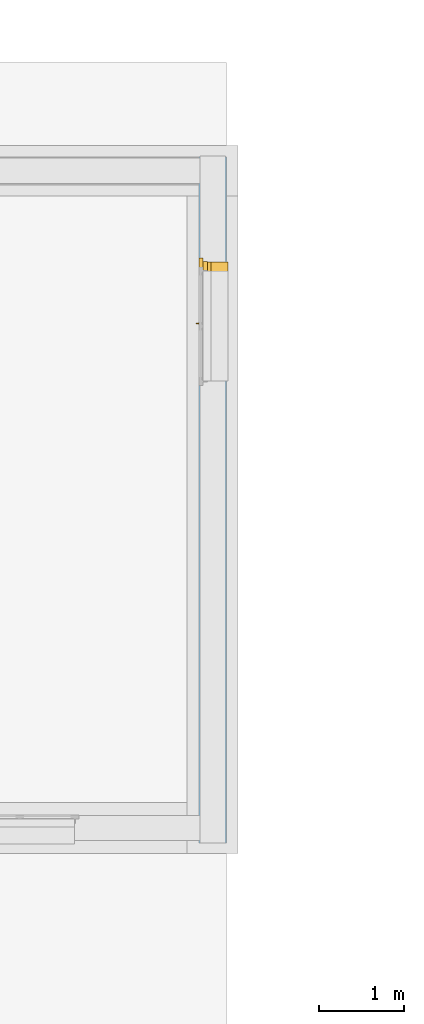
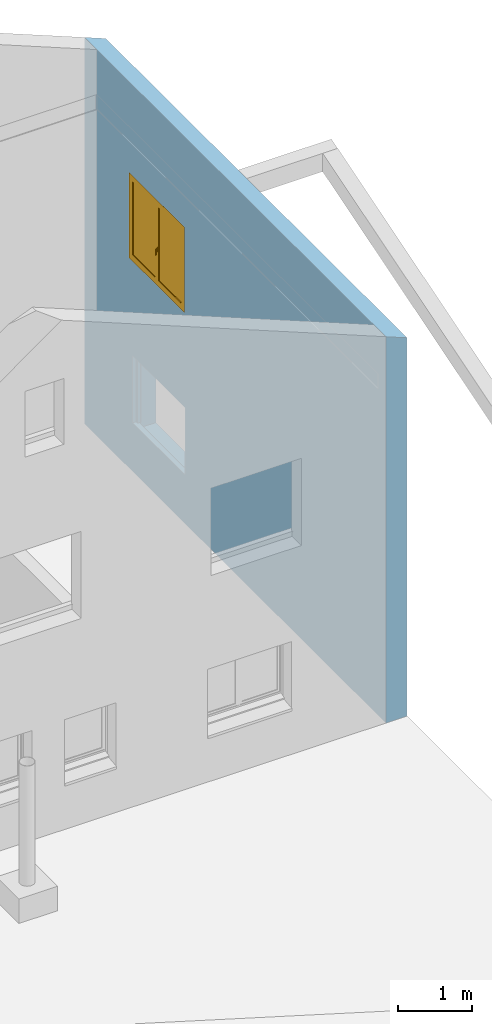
"""IFC2X3 building model written with IfcOpenShell, lengths in metres."""

from ifc_helpers import new_model, entity, si_unit, converted_unit, derived_unit, direction, frame, frame_2d, origin, place, context, subcontext, project, spatial, polyline, rectangle, extrude, clip, bounded_halfspace, faceted_brep, source, transform, mapped, material, material_list, layer, layer_set, layer_usage, type_object, type_shapes, element, fill, save


model = new_model("IFC2X3")

# Units and contexts
model_context = context("Model", 3, precision=1e-05, world=origin(), true_north=direction((6.12303176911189e-17, 1.0)))
body_context = subcontext(model_context, "Body", "Model", "MODEL_VIEW")
ifc_project = project(units=[si_unit("LENGTHUNIT", "METRE"), si_unit("AREAUNIT", "SQUARE_METRE"), si_unit("VOLUMEUNIT", "CUBIC_METRE"), converted_unit("PLANEANGLEUNIT", "DEGREE", entity("IfcRatioMeasure", 0.0174532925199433), si_unit("PLANEANGLEUNIT", "RADIAN"), dimensions=[0, 0, 0, 0, 0, 0, 0]), si_unit("MASSUNIT", "GRAM", prefix="KILO"), derived_unit("MASSDENSITYUNIT", [(si_unit("MASSUNIT", "GRAM", prefix="KILO"), 1), (si_unit("LENGTHUNIT", "METRE"), -3)]), derived_unit("MOMENTOFINERTIAUNIT", [(si_unit("LENGTHUNIT", "METRE"), 4)]), si_unit("TIMEUNIT", "SECOND"), si_unit("FREQUENCYUNIT", "HERTZ"), si_unit("THERMODYNAMICTEMPERATUREUNIT", "DEGREE_CELSIUS"), derived_unit("THERMALTRANSMITTANCEUNIT", [(si_unit("MASSUNIT", "GRAM", prefix="KILO"), 1), (si_unit("THERMODYNAMICTEMPERATUREUNIT", "KELVIN"), -1), (si_unit("TIMEUNIT", "SECOND"), -3)]), derived_unit("VOLUMETRICFLOWRATEUNIT", [(si_unit("LENGTHUNIT", "METRE"), 3), (si_unit("TIMEUNIT", "SECOND"), -1)]), si_unit("ELECTRICCURRENTUNIT", "AMPERE"), si_unit("ELECTRICVOLTAGEUNIT", "VOLT"), si_unit("POWERUNIT", "WATT"), si_unit("FORCEUNIT", "NEWTON", prefix="KILO"), si_unit("ILLUMINANCEUNIT", "LUX"), si_unit("LUMINOUSFLUXUNIT", "LUMEN"), si_unit("LUMINOUSINTENSITYUNIT", "CANDELA"), derived_unit("USERDEFINED", [(si_unit("MASSUNIT", "GRAM", prefix="KILO"), -1), (si_unit("LENGTHUNIT", "METRE"), -2), (si_unit("TIMEUNIT", "SECOND"), 3), (si_unit("LUMINOUSFLUXUNIT", "LUMEN"), 1)]), derived_unit("LINEARVELOCITYUNIT", [(si_unit("LENGTHUNIT", "METRE"), 1), (si_unit("TIMEUNIT", "SECOND"), -1)]), si_unit("PRESSUREUNIT", "PASCAL"), derived_unit("USERDEFINED", [(si_unit("LENGTHUNIT", "METRE"), -2), (si_unit("MASSUNIT", "GRAM", prefix="KILO"), 1), (si_unit("TIMEUNIT", "SECOND"), -2)]), derived_unit("LINEARFORCEUNIT", [(si_unit("MASSUNIT", "GRAM", prefix="KILO"), 1), (si_unit("LENGTHUNIT", "METRE"), 1), (si_unit("TIMEUNIT", "SECOND"), -2), (si_unit("LENGTHUNIT", "METRE"), -1)]), derived_unit("PLANARFORCEUNIT", [(si_unit("MASSUNIT", "GRAM", prefix="KILO"), 1), (si_unit("LENGTHUNIT", "METRE"), 1), (si_unit("TIMEUNIT", "SECOND"), -2), (si_unit("LENGTHUNIT", "METRE"), -2)])], contexts=[model_context])

# Site, building, storey
site_placement = place(None, origin())
site = spatial("IfcSite", under=ifc_project, at=site_placement, Name="Surface", CompositionType="ELEMENT")
building_placement = place(site_placement, origin())
building = spatial("IfcBuilding", under=site, at=building_placement, CompositionType="ELEMENT")
storey_1_placement = place(building_placement, origin())
storey_1 = spatial("IfcBuildingStorey", under=building, at=storey_1_placement, Name="Niveau rdc", CompositionType="ELEMENT", Elevation=-1.94916083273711e-14)

# Wall, openings
ifc_material_1 = material(Name="Maçonnerie - Isolant")
ifc_layer_1 = layer(ifc_material_1, 0.015)
ifc_material_2 = material(Name="Blocs briques monomur")
ifc_layer_2 = layer(ifc_material_2, 0.3)
ifc_layer_3 = layer(ifc_material_1, 0.015)
ifc_layer_set = layer_set([ifc_layer_1, ifc_layer_2, ifc_layer_3], Name="Mur de base:bloc monomur30")
ifc_layer_usage = layer_usage(ifc_layer_set, "AXIS2", "POSITIVE", -0.165)
wall_type = type_object("IfcWallType", Name="Mur de base:bloc monomur30", PredefinedType="STANDARD", material=ifc_layer_set)
wall_placement = place(storey_1_placement, frame((12.6193960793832, 7.33925810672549, 0.0), z_axis=(0.0, 0.0, 1.0), x_axis=(0.0, -1.0, 0.0)))
wall = element("IfcWallStandardCase", 1, at=wall_placement, inside=storey_1, type_object=wall_type, material=ifc_layer_usage, Name="Mur de base:bloc monomur30", ObjectType="Mur de base:bloc monomur30", context=body_context, shape_type="Clipping", body=[
    clip(extrude(rectangle(XDim=8.095, YDim=0.329999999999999, at=frame_2d((4.0475, -6.93889390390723e-17), x_axis=(-1.0, 0.0))), origin(), (0.0, 0.0, 1.0), 6.33642179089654), bounded_halfspace(frame((0.0, -0.165000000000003, 6.33642179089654), z_axis=(0.0, 0.374606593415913, 0.927183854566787), x_axis=(-1.0, 0.0, 0.0)), False, frame((0.0, -0.165000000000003, 6.33642179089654)), polyline([(0.0, 0.0), (0.33, 0.0), (3.94, 0.0), (4.14, 0.0), (7.765, 0.0), (8.095, 0.0), (8.095, 0.330000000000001), (0.0, 0.330000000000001), (0.0, 0.0)]))),
])
opening_1_placement = place(storey_1_placement, frame((12.6193960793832, 7.33925810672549, 0.0), z_axis=(0.0, 0.0, 1.0), x_axis=(0.0, -1.0, 0.0)))
element("IfcOpeningElement", 2, at=opening_1_placement, cuts=wall, Name="Mur de base:bloc monomur30:1", ObjectType="Opening", context=body_context, shape_type="SweptSolid", body=[
    extrude(rectangle(XDim=7.57500000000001, YDim=0.0150000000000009, at=frame_2d((0.0568749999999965, -0.00375000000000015), x_axis=(1.0, 0.0))), frame((4.159375, -0.161250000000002, 5.35000000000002), z_axis=(0.0, 0.0, 1.0), x_axis=(-1.0, 0.0, 0.0)), (0.0, 0.0, 1.0), 0.249999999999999),
])
opening_2_placement = place(wall_placement, frame((2.695, -0.500000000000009, 0.72), z_axis=(0.0, 0.0, 1.0), x_axis=(0.0, 1.0, 0.0)))
element("IfcOpeningElement", 3, at=opening_2_placement, cuts=wall, Name="Mur de base:bloc monomur30", ObjectType="Opening", context=body_context, shape_type="Brep", body=[
    faceted_brep([(0.41499999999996, 1.35, 0.0800000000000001), (0.435000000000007, 1.35, 0.0800000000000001), (0.435000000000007, 1.35, 1.13), (1.0, 1.35, 1.13), (1.0, 1.35, 0.0), (0.41499999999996, 1.35, 0.0), (0.0, 0.0500000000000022, 0.0800000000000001), (0.335000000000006, 0.0500000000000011, 0.0800000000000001), (0.335000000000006, 0.0500000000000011, 1.13), (0.0, 0.0500000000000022, 1.13), (0.0, 1.35, 0.0800000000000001), (0.335000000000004, 1.35, 0.0800000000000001), (0.335000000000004, 1.4, 0.0800000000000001), (0.385000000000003, 1.4, 0.0800000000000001), (0.385000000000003, 1.36, 0.0800000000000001), (0.435000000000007, 1.36, 0.0800000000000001), (0.414999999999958, 0.0500000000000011, 0.0800000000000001), (0.435000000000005, 0.0500000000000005, 0.0800000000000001), (0.435000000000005, 0.0400000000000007, 0.0800000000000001), (0.385000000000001, 0.0400000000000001, 0.0800000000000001), (0.385000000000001, 0.0, 0.0800000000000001), (0.335000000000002, 0.0, 0.0800000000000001), (0.0, 1.35, 1.13), (0.435000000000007, 0.0500000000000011, 1.13), (1.0, 0.0499999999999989, 1.13), (1.0, 0.0499999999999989, 0.0), (0.414999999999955, 0.0500000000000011, 0.0), (0.335000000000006, 1.4, 1.18), (0.385000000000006, 1.4, 1.18), (0.385000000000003, 0.0, 1.18), (0.385000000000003, 0.0400000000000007, 1.14), (0.385000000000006, 1.36, 1.14), (0.435000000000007, 1.36, 1.14), (0.435000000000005, 0.0400000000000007, 1.14), (0.335000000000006, 1.35, 1.13), (0.335000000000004, 0.0, 1.18)], [[[0, 1, 2, 3, 4, 5]], [[6, 7, 8, 9]], [[10, 11, 12, 13, 14, 15, 1, 0, 16, 17, 18, 19, 20, 21, 7, 6]], [[10, 6, 9, 22]], [[3, 2, 23, 24]], [[3, 24, 25, 4]], [[4, 25, 26, 5]], [[5, 26, 16, 0]], [[12, 27, 28, 13]], [[13, 28, 29, 20, 19, 30, 31, 14]], [[14, 31, 32, 15]], [[15, 32, 33, 18, 17, 23, 2, 1]], [[11, 34, 8, 7, 21, 35, 27, 12]], [[27, 35, 29, 28]], [[30, 33, 32, 31]], [[29, 35, 21, 20]], [[19, 18, 33, 30]], [[9, 8, 34, 22]], [[24, 23, 17, 16, 26, 25]], [[22, 34, 11, 10]]]),
])
opening_3_placement = place(wall_placement, frame((2.69, -0.500000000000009, 3.37), z_axis=(0.0, 0.0, 1.0), x_axis=(0.0, 1.0, 0.0)))
opening_3 = element("IfcOpeningElement", 4, at=opening_3_placement, cuts=wall, Name="Mur de base:bloc monomur30", ObjectType="Opening", context=body_context, shape_type="Brep", body=[
    faceted_brep([(0.41499999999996, 1.45, 0.0800000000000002), (0.435000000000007, 1.45, 0.0800000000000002), (0.435000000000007, 1.45, 1.43), (1.0, 1.45, 1.43), (1.0, 1.45, 0.0), (0.41499999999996, 1.45, 0.0), (0.0, 0.0500000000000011, 0.0800000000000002), (0.335000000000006, 0.05, 0.0800000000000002), (0.335000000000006, 0.05, 1.43), (0.0, 0.0500000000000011, 1.43), (0.0, 1.45, 0.0800000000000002), (0.335000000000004, 1.45, 0.0800000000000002), (0.335000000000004, 1.5, 0.0800000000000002), (0.385000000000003, 1.5, 0.0800000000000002), (0.385000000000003, 1.46, 0.0800000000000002), (0.435000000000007, 1.46, 0.0800000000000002), (0.414999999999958, 0.05, 0.0799999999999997), (0.435000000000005, 0.0499999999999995, 0.0800000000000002), (0.435000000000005, 0.0399999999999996, 0.0800000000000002), (0.385000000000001, 0.0399999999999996, 0.0800000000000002), (0.385000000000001, 0.0, 0.0800000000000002), (0.335000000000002, 0.0, 0.0800000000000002), (0.0, 1.45, 1.43), (0.435000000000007, 0.05, 1.43), (1.0, 0.0499999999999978, 1.43), (1.0, 0.0499999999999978, 0.0), (0.414999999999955, 0.05, 0.0), (0.335000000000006, 1.5, 1.48), (0.385000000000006, 1.5, 1.48), (0.385000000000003, 0.0, 1.48), (0.385000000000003, 0.0399999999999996, 1.44), (0.385000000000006, 1.46, 1.44), (0.435000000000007, 1.46, 1.44), (0.435000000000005, 0.0399999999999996, 1.44), (0.335000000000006, 1.45, 1.43), (0.335000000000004, 0.0, 1.48)], [[[0, 1, 2, 3, 4, 5]], [[6, 7, 8, 9]], [[10, 11, 12, 13, 14, 15, 1, 0, 16, 17, 18, 19, 20, 21, 7, 6]], [[10, 6, 9, 22]], [[3, 2, 23, 24]], [[3, 24, 25, 4]], [[4, 25, 26, 5]], [[5, 26, 16, 0]], [[12, 27, 28, 13]], [[13, 28, 29, 20, 19, 30, 31, 14]], [[14, 31, 32, 15]], [[15, 32, 33, 18, 17, 23, 2, 1]], [[11, 34, 8, 7, 21, 35, 27, 12]], [[27, 35, 29, 28]], [[30, 33, 32, 31]], [[29, 35, 21, 20]], [[19, 18, 33, 30]], [[9, 8, 34, 22]], [[24, 23, 17, 16, 26, 25]], [[22, 34, 11, 10]]]),
])

# Storey
storey_2_placement = place(building_placement, frame((0.0, 0.0, 2.65)))
storey_2 = spatial("IfcBuildingStorey", under=building, at=storey_2_placement, Name="Niveau étage", CompositionType="ELEMENT", Elevation=2.65)

# Window
ifc_material_3 = material(Name="Fenêtre - Poignée")
ifc_material_4 = material(Name="Fenêtre - Appui")
ifc_material_5 = material(Name="Fenêtre - Cadre(1)")
ifc_material_6 = material(Name="Fenêtre - Vitrage")
ifc_material_7 = material(Name="Fenêtre - Cadre")
ifc_material_list_1 = material_list([ifc_material_3, ifc_material_4, ifc_material_5, ifc_material_6, ifc_material_7])
ifc_material_8 = material(Name="Volets - Bois")
ifc_material_list_2 = material_list([ifc_material_6, ifc_material_7, ifc_material_8, ifc_material_4, ifc_material_5, ifc_material_3])
window_style = type_object("IfcWindowStyle", Name="2 Vantaux droits - Volets et petits bois:1.40m x 1.35m - Appui Béton 2", ConstructionType="NOTDEFINED", OperationType="DOUBLE_PANEL_VERTICAL", ParameterTakesPrecedence=False, Sizeable=False, material=ifc_material_list_2)
shared_shape = source(origin(), body_context, "Body", "Brep", [
    faceted_brep([(0.780646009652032, -0.67100000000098, 0.702033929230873), (0.782033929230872, -0.67100000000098, 0.700646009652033), (0.782033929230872, -0.67100000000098, 0.689332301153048), (0.780667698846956, -0.67100000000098, 0.687966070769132), (0.769332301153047, -0.67100000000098, 0.687966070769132), (0.767966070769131, -0.67100000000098, 0.689332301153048), (0.767966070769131, -0.67100000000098, 0.700646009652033), (0.769353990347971, -0.67100000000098, 0.702033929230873), (0.780646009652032, -0.683913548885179, 0.702033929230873), (0.782033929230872, -0.683338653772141, 0.700646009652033), (0.782033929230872, -0.69664600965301, 0.687338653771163), (0.782033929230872, -0.69664600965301, 0.600000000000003), (0.782033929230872, -0.685332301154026, 0.600000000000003), (0.782033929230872, -0.685332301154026, 0.682652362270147), (0.782033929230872, -0.678652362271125, 0.689332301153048), (0.780667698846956, -0.678086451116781, 0.687966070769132), (0.769332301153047, -0.678086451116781, 0.687966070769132), (0.767966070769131, -0.678652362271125, 0.689332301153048), (0.767966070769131, -0.685332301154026, 0.682652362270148), (0.767966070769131, -0.685332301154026, 0.600000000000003), (0.767966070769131, -0.69664600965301, 0.600000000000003), (0.767966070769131, -0.69664600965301, 0.687338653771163), (0.767966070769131, -0.683338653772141, 0.700646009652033), (0.769353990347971, -0.683913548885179, 0.702033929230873), (0.780646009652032, -0.69803392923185, 0.687913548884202), (0.780667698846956, -0.68396607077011, 0.682086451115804), (0.769332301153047, -0.68396607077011, 0.682086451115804), (0.769353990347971, -0.698033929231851, 0.687913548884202), (0.780646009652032, -0.69803392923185, 0.600000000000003), (0.769353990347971, -0.69803392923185, 0.600000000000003), (0.769332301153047, -0.68396607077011, 0.600000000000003), (0.780667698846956, -0.68396607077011, 0.600000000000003)], [[[0, 1, 2, 3, 4, 5, 6, 7]], [[1, 0, 8, 9]], [[2, 1, 9, 10, 11, 12, 13, 14]], [[3, 2, 14, 15]], [[4, 3, 15, 16]], [[5, 4, 16, 17]], [[6, 5, 17, 18, 19, 20, 21, 22]], [[7, 6, 22, 23]], [[0, 7, 23, 8]], [[9, 8, 24, 10]], [[15, 14, 13, 25]], [[16, 15, 25, 26]], [[17, 16, 26, 18]], [[23, 22, 21, 27]], [[8, 23, 27, 24]], [[28, 29, 20, 19, 30, 31, 12, 11]], [[10, 24, 28, 11]], [[25, 13, 12, 31]], [[26, 25, 31, 30]], [[18, 26, 30, 19]], [[27, 21, 20, 29]], [[24, 27, 29, 28]]]),
    faceted_brep([(0.782000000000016, -0.671000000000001, 0.72), (0.768, -0.671000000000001, 0.72), (0.763, -0.671000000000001, 0.715000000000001), (0.763, -0.671000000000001, 0.644999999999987), (0.767999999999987, -0.671000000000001, 0.639999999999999), (0.782000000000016, -0.671000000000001, 0.639999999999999), (0.787000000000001, -0.671000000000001, 0.644999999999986), (0.787000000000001, -0.671000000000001, 0.715000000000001), (0.782000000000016, -0.665000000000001, 0.72), (0.787000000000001, -0.665000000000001, 0.715000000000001), (0.787000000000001, -0.665000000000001, 0.644999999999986), (0.782000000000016, -0.665000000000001, 0.639999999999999), (0.767999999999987, -0.665000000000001, 0.639999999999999), (0.763, -0.665000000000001, 0.644999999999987), (0.763, -0.665000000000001, 0.715000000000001), (0.768, -0.665000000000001, 0.72)], [[[0, 1, 2, 3, 4, 5, 6, 7]], [[8, 9, 10, 11, 12, 13, 14, 15]], [[1, 0, 8, 15]], [[2, 1, 15, 14]], [[3, 2, 14, 13]], [[4, 3, 13, 12]], [[5, 4, 12, 11]], [[6, 5, 11, 10]], [[7, 6, 10, 9]], [[0, 7, 9, 8]]]),
    faceted_brep([(0.0499999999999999, -0.584999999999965, 0.0799999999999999), (0.05, -0.534999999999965, 0.0799999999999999), (0.05, -0.534999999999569, 0.0650000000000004), (0.0500000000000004, -0.319999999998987, 0.0424025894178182), (0.0500000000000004, -0.319999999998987, 0.0), (0.0499999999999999, -0.584999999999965, 0.0), (1.45, -0.584999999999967, 0.0799999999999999), (1.45, -0.584999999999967, 0.0), (1.45, -0.31999999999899, 0.0), (1.45, -0.31999999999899, 0.0424025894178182), (1.45, -0.534999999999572, 0.0650000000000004), (1.45, -0.534999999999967, 0.0799999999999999)], [[[0, 1, 2, 3, 4, 5]], [[6, 7, 8, 9, 10, 11]], [[1, 0, 6, 11]], [[2, 1, 11, 10]], [[3, 2, 10, 9]], [[4, 3, 9, 8]], [[5, 4, 8, 7]], [[0, 5, 7, 6]]]),
    faceted_brep([(0.75, -0.624999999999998, 1.43), (0.749999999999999, -0.664999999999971, 1.43), (0.749999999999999, -0.664999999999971, 0.13), (0.749999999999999, -0.624999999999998, 0.13), (0.0499999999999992, -0.664999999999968, 0.13), (0.0499999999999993, -0.624999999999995, 0.13), (0.0499999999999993, -0.664999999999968, 1.43), (0.0999999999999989, -0.664999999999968, 0.18), (0.0999999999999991, -0.664999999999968, 1.38), (0.699999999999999, -0.66499999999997, 1.38), (0.699999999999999, -0.66499999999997, 0.18), (0.0499999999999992, -0.624999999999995, 1.43), (0.699999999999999, -0.624999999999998, 0.18), (0.7, -0.624999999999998, 1.38), (0.0999999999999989, -0.624999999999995, 1.38), (0.0999999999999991, -0.624999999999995, 0.18)], [[[0, 1, 2, 3]], [[3, 2, 4, 5]], [[2, 1, 6, 4], [7, 8, 9, 10]], [[5, 4, 6, 11]], [[5, 11, 0, 3], [12, 13, 14, 15]], [[9, 13, 12, 10]], [[10, 12, 15, 7]], [[7, 15, 14, 8]], [[11, 6, 1, 0]], [[8, 14, 13, 9]]]),
    faceted_brep([(0.8, -0.639000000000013, 0.18), (0.8, -0.639000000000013, 1.38), (1.4, -0.639000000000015, 1.38), (1.4, -0.639000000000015, 0.18), (0.8, -0.651000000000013, 0.18), (0.8, -0.651000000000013, 1.38), (1.4, -0.651000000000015, 1.38), (1.4, -0.651000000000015, 0.18)], [[[0, 1, 2, 3]], [[1, 0, 4, 5]], [[3, 2, 6, 7]], [[0, 3, 7, 4]], [[2, 1, 5, 6]], [[4, 7, 6, 5]]]),
    faceted_brep([(0.7, -0.639000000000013, 0.18), (0.7, -0.639000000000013, 1.38), (0.7, -0.651000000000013, 1.38), (0.7, -0.651000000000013, 0.18), (0.0999999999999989, -0.639000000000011, 0.18), (0.0999999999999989, -0.651000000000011, 0.18), (0.0999999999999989, -0.639000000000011, 1.38), (0.0999999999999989, -0.651000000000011, 1.38)], [[[0, 1, 2, 3]], [[4, 0, 3, 5]], [[6, 4, 5, 7]], [[7, 5, 3, 2]], [[1, 6, 7, 2]], [[6, 1, 0, 4]]]),
    faceted_brep([(0.799999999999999, -0.625000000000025, 1.38), (0.799999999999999, -0.665000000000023, 1.38), (0.799999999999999, -0.665000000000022, 0.18), (0.8, -0.625000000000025, 0.18), (1.4, -0.665000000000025, 0.18), (1.4, -0.625000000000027, 0.18), (1.4, -0.665000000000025, 1.38), (1.45, -0.665000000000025, 0.130000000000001), (1.45, -0.665000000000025, 1.43), (0.75, -0.665000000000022, 1.43), (0.75, -0.665000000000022, 0.130000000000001), (1.4, -0.625000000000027, 1.38), (0.75, -0.625000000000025, 0.130000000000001), (0.75, -0.625000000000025, 1.43), (1.45, -0.625000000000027, 1.43), (1.45, -0.625000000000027, 0.130000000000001)], [[[0, 1, 2, 3]], [[3, 2, 4, 5]], [[2, 1, 6, 4], [7, 8, 9, 10]], [[5, 4, 6, 11]], [[5, 11, 0, 3], [12, 13, 14, 15]], [[9, 13, 12, 10]], [[10, 12, 15, 7]], [[7, 15, 14, 8]], [[11, 6, 1, 0]], [[8, 14, 13, 9]]], outer=[[True], [True], [False, True], [True], [False, True], [True], [True], [True], [True], [True]]),
    faceted_brep([(0.0, -0.665000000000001, 0.0799999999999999), (0.0, -0.615000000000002, 0.0799999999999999), (0.0499999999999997, -0.615000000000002, 0.0799999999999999), (0.0499999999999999, -0.530000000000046, 0.0799999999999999), (1.45, -0.530000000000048, 0.0800000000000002), (1.45, -0.615000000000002, 0.0799999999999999), (1.5, -0.615000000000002, 0.0799999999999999), (1.5, -0.665000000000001, 0.0799999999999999), (0.0, -0.665000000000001, 1.48), (0.0, -0.615000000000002, 1.48), (1.5, -0.615000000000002, 1.48), (1.45, -0.615000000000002, 0.119376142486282), (0.0499999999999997, -0.615000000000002, 0.119376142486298), (0.0649999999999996, -0.615000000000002, 1.415), (0.0649999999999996, -0.615000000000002, 0.145), (1.435, -0.615000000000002, 0.145), (1.435, -0.615000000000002, 1.415), (0.0499999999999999, -0.520000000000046, 0.0939209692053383), (0.0499999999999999, -0.520000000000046, 0.0749999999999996), (0.0499999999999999, -0.530000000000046, 0.0749999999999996), (1.45, -0.530000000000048, 0.0749999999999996), (1.45, -0.520000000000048, 0.0749999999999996), (1.45, -0.520000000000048, 0.0939209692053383), (1.5, -0.665000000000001, 1.48), (1.45, -0.665000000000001, 1.43), (1.45, -0.665000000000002, 0.13), (0.0499999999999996, -0.665000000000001, 0.13), (0.0499999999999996, -0.665000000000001, 1.43), (0.0649999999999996, -0.625000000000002, 1.415), (0.0649999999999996, -0.625000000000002, 0.145), (1.435, -0.625000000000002, 0.145), (1.435, -0.625000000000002, 1.415), (1.45, -0.625000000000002, 1.43), (0.0499999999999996, -0.625000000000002, 1.43), (0.0499999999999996, -0.625000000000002, 0.13), (1.45, -0.625000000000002, 0.13)], [[[0, 1, 2, 3, 4, 5, 6, 7]], [[1, 0, 8, 9]], [[1, 9, 10, 6, 5, 11, 12, 2], [13, 14, 15, 16]], [[12, 17, 18, 19, 3, 2]], [[3, 19, 20, 4]], [[4, 20, 21, 22, 11, 5]], [[6, 10, 23, 7]], [[0, 7, 23, 8], [24, 25, 26, 27]], [[13, 28, 29, 14]], [[29, 30, 15, 14]], [[31, 16, 15, 30]], [[17, 12, 11, 22]], [[32, 33, 34, 35], [28, 31, 30, 29]], [[34, 33, 27, 26]], [[26, 25, 35, 34]], [[24, 32, 35, 25]], [[18, 17, 22, 21]], [[19, 18, 21, 20]], [[13, 16, 31, 28]], [[33, 32, 24, 27]], [[10, 9, 8, 23]]]),
    faceted_brep([(0.0499999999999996, -0.565, 0.0799999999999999), (0.0499999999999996, -0.615000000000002, 0.0799999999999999), (0.0399999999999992, -0.615000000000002, 0.0799999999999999), (0.0399999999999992, -0.565, 0.0799999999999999), (0.0499999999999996, -0.565, 1.43), (0.0499999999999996, -0.615000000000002, 1.43), (1.45, -0.615000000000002, 1.43), (1.45, -0.615000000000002, 0.0799999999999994), (1.46, -0.615000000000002, 0.0799999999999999), (1.46, -0.615000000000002, 1.44), (0.0399999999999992, -0.615000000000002, 1.44), (0.0399999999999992, -0.565, 1.44), (1.46, -0.565, 1.44), (1.46, -0.565, 0.0799999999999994), (1.45, -0.565, 0.0799999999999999), (1.45, -0.565, 1.43)], [[[0, 1, 2, 3]], [[1, 0, 4, 5]], [[2, 1, 5, 6, 7, 8, 9, 10]], [[3, 2, 10, 11]], [[0, 3, 11, 12, 13, 14, 15, 4]], [[6, 15, 14, 7]], [[14, 13, 8, 7]], [[12, 9, 8, 13]], [[5, 4, 15, 6]], [[11, 10, 9, 12]]]),
    faceted_brep([(0.769999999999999, -0.61700000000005, 1.415), (0.729999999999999, -0.617000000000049, 1.415), (0.729999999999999, -0.625000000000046, 1.415), (0.769999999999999, -0.625000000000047, 1.415), (0.769999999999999, -0.61700000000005, 0.145), (0.769999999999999, -0.625000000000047, 0.145), (0.729999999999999, -0.625000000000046, 0.145), (0.729999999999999, -0.617000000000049, 0.145)], [[[0, 1, 2, 3]], [[4, 5, 6, 7]], [[1, 0, 4, 7]], [[2, 1, 7, 6]], [[3, 2, 6, 5]], [[0, 3, 5, 4]]]),
])
type_shapes(window_style, [shared_shape])
window_placement = place(opening_3_placement, frame((1.0, 1.5, 0.0), z_axis=(0.0, 0.0, 1.0), x_axis=(0.0, -1.0, 0.0)))
window = element("IfcWindow", 5, at=window_placement, inside=storey_2, type_object=window_style, material=ifc_material_list_1, Name="2 Vantaux droits - Volets et petits bois:1.40m x 1.35m - Appui Béton 2", ObjectType="2 Vantaux droits - Volets et petits bois:1.40m x 1.35m - Appui Béton 2", OverallHeight=1.48, OverallWidth=1.5, context=body_context, shape_type="MappedRepresentation", body=[
    mapped(shared_shape, transform((0.0, 0.0, 0.0), scale=1.0)),
])

fill(opening_3, window)

save(model, "model.ifc")
